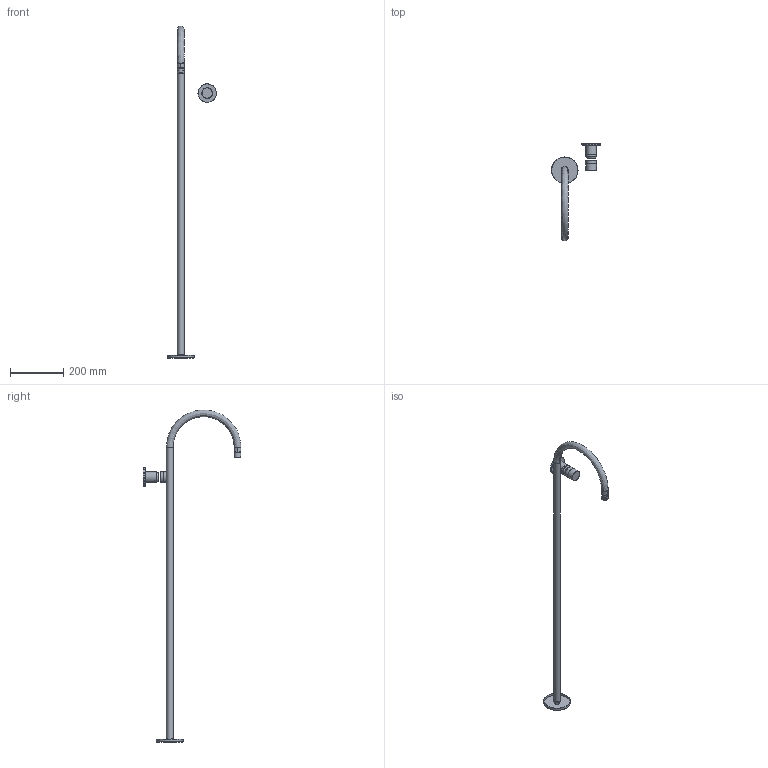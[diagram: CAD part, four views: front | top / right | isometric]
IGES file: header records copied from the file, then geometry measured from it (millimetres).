
Start section: Data from Parasolid IGES Translator 22.0.50, Copyright(c) 2006 Siemens P LM Software. All Rights Reserved.
Global section: file name: noorth-taps-H 125 D 31,8 W 10_2567-5840.igs; native system: By Siemens PLM Incorporated; preprocessor: XPlus GENERIC/IGES 22.0.50; author: Noname; organization: Noname; date: 20260215.163237; units: metre
Bounding box: 184.64 x 367.5 x 1250 mm (x, y, z)
Volume: 137384 mm3; surface area: 265653.8 mm2
Topology: 5 solids, 5 shells, 153 faces, 787 edges, 757 vertices
Faces by surface type: extrusion 57, revolution 47, plane 18, cylinder 12, bspline 10, cone 8, torus 1
Full cylindrical faces by diameter (mm): 20.1 x1, 23.6 x1, 25 x1, 30 x1, 37 x1, 40 x3, 40.3 x1, 70 x1
